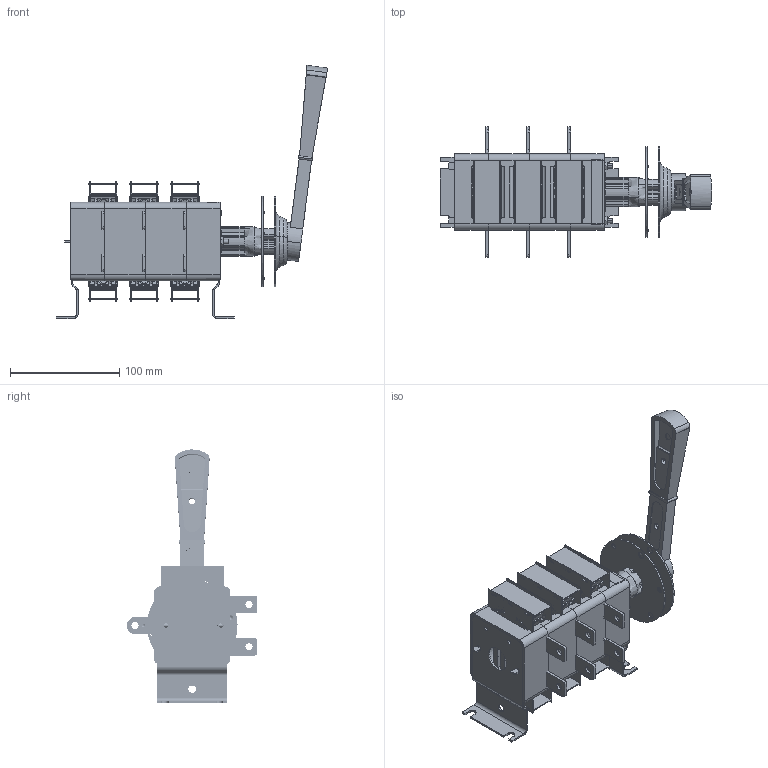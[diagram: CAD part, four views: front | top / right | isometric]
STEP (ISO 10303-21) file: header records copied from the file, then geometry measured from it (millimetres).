
FILE_DESCRIPTION (( 'STEP AP214' ), '1' );
FILE_NAME ('ﾂﾐ32-31 ﾃﾆﾈﾊ.642423.009-01 (ﾀ71250-100ﾀ).STEP', '2023-04-18T10:56:44', ( '' ), ( '' ), 'SwSTEP 2.0', 'SolidWorks 2018', '' );
FILE_SCHEMA (( 'AUTOMOTIVE_DESIGN' ));
Length unit declared in the file: millimetre
Products named in the file (37): Òàáëè÷êà äëÿ ñáîðêè ÷èñòàÿ áîëüøàÿ; ﾂ琿 ﾃﾆﾈﾊ.715274.011; 锐牮钽囫栩咫黖闷仁.741271.005_sborka; ﾂ琿 ﾃﾆﾈﾊ.303731.004; Ïðóæèíà ôèêñàòîðà 31(2)_-01 (®âª«îç¥­®); 羊屙赅 闷仁.741226.005; Áîêîâèíà ëåâàÿ_ÃÆÈÊ.735224.032_-01 (à¥§ì¡ ); 买箅赅 闷仁.713141.009; Êîðïóñ ëåâûé ÃÆÈÊ.735384.075; 锐牮钽囫栩咫黖闷仁.741271.005; ﾘ琺矜 ﾃﾆﾈﾊ.758491.056; ﾎﾁﾎﾋﾎﾗﾊﾀ_ﾍ; 锐牮钽囫栩咫黖闷仁.686433.010; Ïëàñòèíà óïðàâëåíèÿ; Êîíòàêòû 060 è ñêîáû 032 äëÿ ñáîðêè âàëà; 暑痫篑 镳噔 闷仁.735384.073; 殃钺郷闷仁.746743.009; Ãàéêà 2Ì4-6Í.5.016; Êîðïóñ ñðåäíèé ÃÆÈÊ.735384.074; Ðóêîÿòêà ÃÆÈÊ.303658.010; ﾂ鏆鮏_ﾃ745485_014 蓁_-01; 想囫蜩磬_闷仁.745355.025; ﾘ琺矜 D32; Áîêîâèíà ïðàâàÿ_ÃÆÈÊ.735224.030; Ñêîáà ÃÆÈÊ.745326.032_“áâ ­®¢«¥­­®¥ á®áâ; ﾘ琺矜 4; Òàáëè÷êà äëÿ ñáîðêè ÷èñòàÿ; Çåðêàëüíî îòðàçèòüÂûâîä_Ã745485_012 ; Ôëàíåö ÃÆÈÊ.712378.001_-01 (2 ­ ¯à ¢«¥­¨ï); Êîíòàêò ïîäâèæíûé_ÃÆÈÊ.745355.060; Øïèëüêà ñïåöèàëüíàÿ ÃÆÈÊ.754292.014_-01(à¥§ì¡ ); ﾘ琺矜 D15; ﾂ鏆鮏 ﾃﾆﾈﾊ.745485.012; Êàìåðà äóãîãàñèòåëüíàÿ ÃÆÈÊ.686431.028; ﾂﾐ32-31 ﾃﾆﾈﾊ.642423.009-01 (ﾀ71250-100ﾀ); 想囫蜩磬_-01 (帷獱); 澡犟囹铕 闷仁.745484.014
Assembly tree (66 placements, depth 4):
  ﾂﾐ32-31 ﾃﾆﾈﾊ.642423.009-01 (ﾀ71250-100ﾀ)
    暑痫篑 镳噔 闷仁.735384.073
    Êîðïóñ ñðåäíèé ÃÆÈÊ.735384.074  x2
    Êîðïóñ ëåâûé ÃÆÈÊ.735384.075
    ﾂ琿 ﾃﾆﾈﾊ.303731.004
      ﾂ琿 ﾃﾆﾈﾊ.715274.011
      Êîíòàêòû 060 è ñêîáû 032 äëÿ ñáîðêè âàëà  x3
        Êîíòàêò ïîäâèæíûé_ÃÆÈÊ.745355.060
        Ñêîáà ÃÆÈÊ.745326.032_“áâ ­®¢«¥­­®¥ á®áâ
    Áîêîâèíà ïðàâàÿ_ÃÆÈÊ.735224.030
    Áîêîâèíà ëåâàÿ_ÃÆÈÊ.735224.032_-01 (à¥§ì¡ )
    ﾂ鏆鮏_ﾃ745485_014 蓁_-01  x3
    ﾂ鏆鮏 ﾃﾆﾈﾊ.745485.012  x3
    Çåðêàëüíî îòðàçèòüÂûâîä_Ã745485_012   x3
    买箅赅 闷仁.713141.009
    Êàìåðà äóãîãàñèòåëüíàÿ ÃÆÈÊ.686431.028  x6
      锐牮钽囫栩咫黖闷仁.741271.005
      羊屙赅 闷仁.741226.005
      想囫蜩磬_闷仁.745355.025
      锐牮钽囫栩咫黖闷仁.686433.010
        锐牮钽囫栩咫黖闷仁.741271.005_sborka
        殃钺郷闷仁.746743.009
    Ôëàíåö ÃÆÈÊ.712378.001_-01 (2 ­ ¯à ¢«¥­¨ï)
    ﾘ琺矜 ﾃﾆﾈﾊ.758491.056
    Òàáëè÷êà äëÿ ñáîðêè ÷èñòàÿ áîëüøàÿ
    Òàáëè÷êà äëÿ ñáîðêè ÷èñòàÿ
    澡犟囹铕 闷仁.745484.014  x2
    Ïðóæèíà ôèêñàòîðà 31(2)_-01 (®âª«îç¥­®)  x2
    Øïèëüêà ñïåöèàëüíàÿ ÃÆÈÊ.754292.014_-01(à¥§ì¡ )  x2
    ﾘ琺矜 4  x2
    Ãàéêà 2Ì4-6Í.5.016  x2
    Ðóêîÿòêà ÃÆÈÊ.303658.010
      ﾘ琺矜 D32
      ﾘ琺矜 D15
      Ïëàñòèíà óïðàâëåíèÿ
      想囫蜩磬_-01 (帷獱)
      ﾎﾁﾎﾋﾎﾗﾊﾀ_ﾍ
Bounding box: 248.36 x 119.42 x 231.88 mm (x, y, z)
Volume: 431296.2 mm3; surface area: 373705.6 mm2
Topology: 139 solids, 139 shells, 6615 faces, 17535 edges, 11273 vertices
Faces by surface type: plane 4620, cylinder 1393, torus 394, bspline 144, cone 58, sphere 6
Entity records: 127834 total; most frequent: CARTESIAN_POINT 78405, ORIENTED_EDGE 8720, DIRECTION 8573, EDGE_CURVE 4360, AXIS2_PLACEMENT_3D 2894, VERTEX_POINT 2837, LINE 2785, VECTOR 2785
